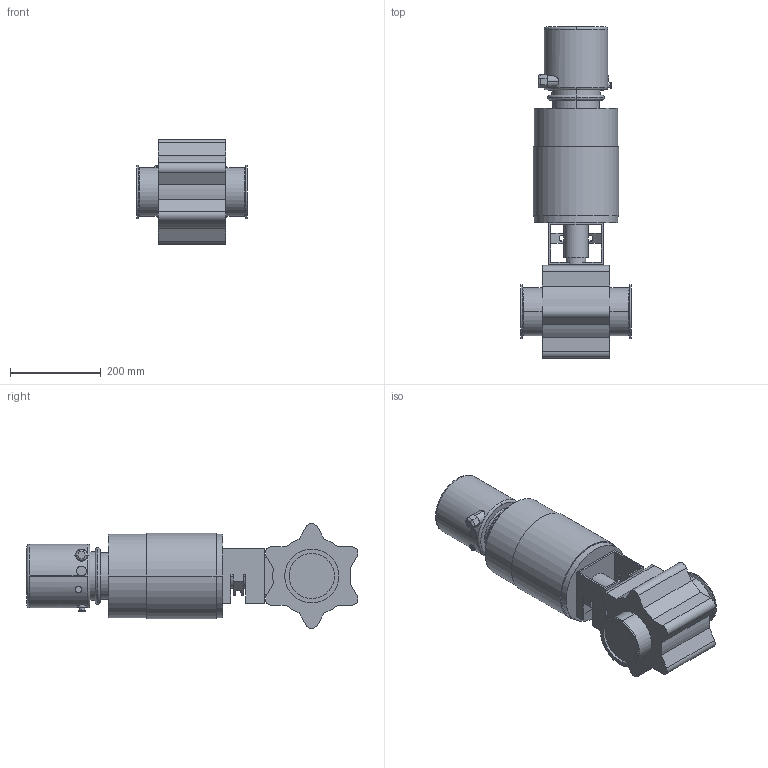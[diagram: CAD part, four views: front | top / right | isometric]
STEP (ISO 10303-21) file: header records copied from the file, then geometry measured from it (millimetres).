
FILE_DESCRIPTION(('Creo Elements/Direct Modeling STEP Export'),'2;1');
FILE_NAME('BLV1-100-NC-12CL-CU4.stp','2019-05-09T14:40:24',(''),(''),'Creo Elements/Direct Modeling STEP processor for AP214 (Solid Model)','Creo Elements/Direct Modeling 19.0F 14-Feb-2017 (C) Parametric Technology GmbH','');
FILE_SCHEMA(('AUTOMOTIVE_DESIGN { 1 0 10303 214 1 1 1 1 }'));
Length unit declared in the file: millimetre
Products named in the file (2): BLV1-100-NC-12CL-CU4
Assembly tree (1 placements, depth 2):
  BLV1-100-NC-12CL-CU4
    BLV1-100-NC-12CL-CU4
Bounding box: 243 x 731.7 x 231 mm (x, y, z)
Volume: 15106816.3 mm3; surface area: 586416.4 mm2
Topology: 1 solids, 2 shells, 262 faces, 683 edges, 448 vertices
Faces by surface type: plane 114, cylinder 101, extrusion 33, torus 10, cone 4
Entity records: 11309 total; most frequent: CARTESIAN_POINT 5232, ORIENTED_EDGE 1368, DIRECTION 1085, EDGE_CURVE 684, VERTEX_POINT 448, VECTOR 369, AXIS2_PLACEMENT_3D 358, LINE 336
